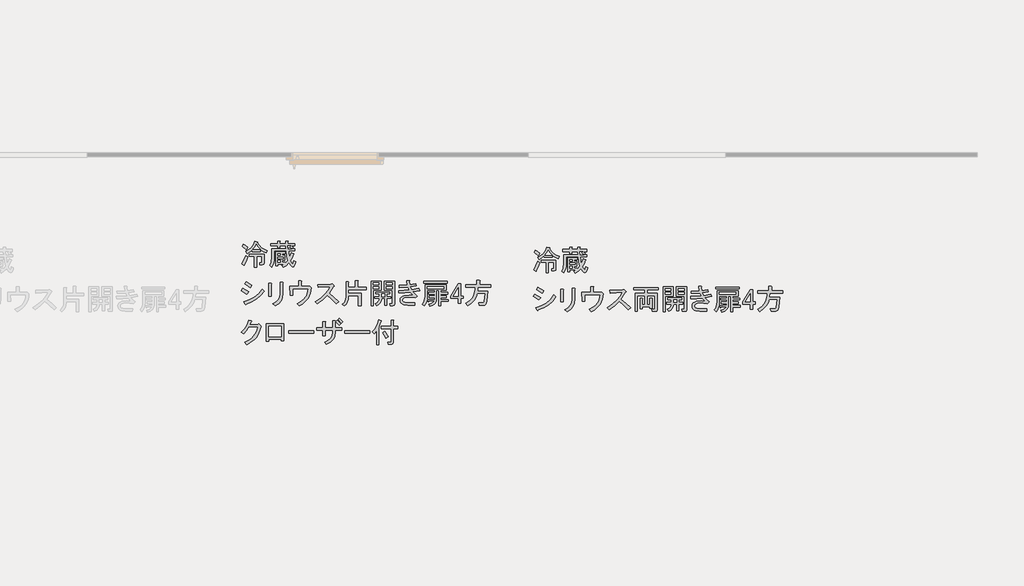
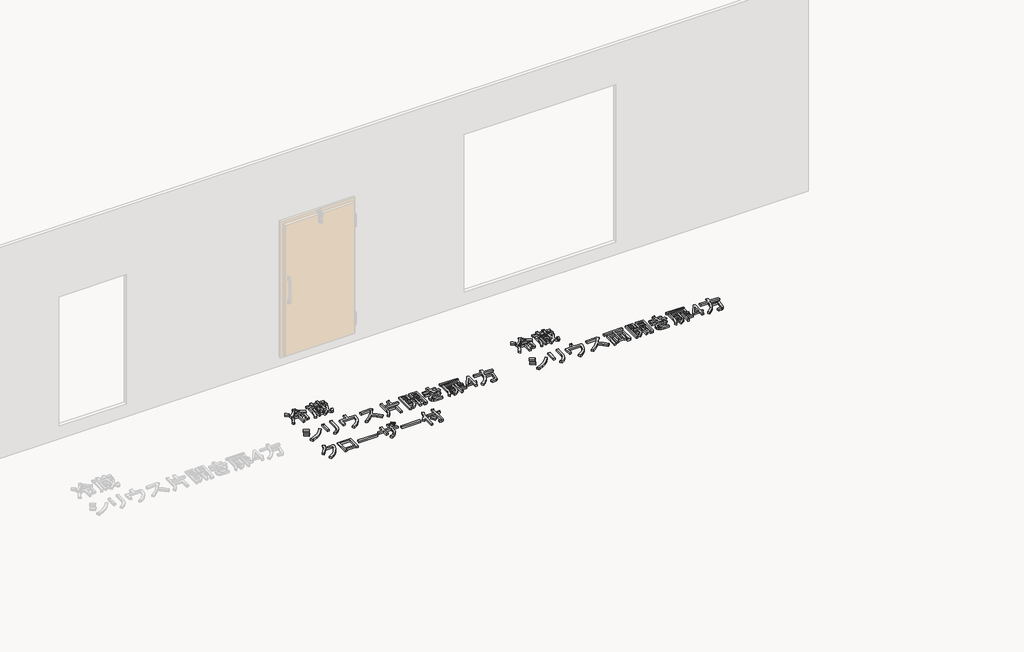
# One storey, part 81 of 117: 2 proxies.
"""IFC4 building model written with IfcOpenShell, lengths in millimetres."""

from ifc_helpers import new_model, si_unit, frame, origin, place, context, project, spatial, polyline, outline, extrude, element, save

model = new_model("IFC4")

# Units and contexts
model_context = context("Model", 3, world=origin())
ifc_project = project(units=[si_unit("LENGTHUNIT", "METRE", prefix="MILLI")], contexts=[model_context])

# Site, building, storey
site = spatial("IfcSite", under=ifc_project)
building = spatial("IfcBuilding", under=site)
storey = spatial("IfcBuildingStorey", under=building, Name="レベル 1", Elevation=500.0)

# Proxies
placement = place(None, origin())
element("IfcBuildingElementProxy", 1, Name="200㎜\u3000MS Pゴシック", ObjectType="200㎜\u3000MS Pゴシック", at=placement, inside=storey, context=model_context, shape_type="SweptSolid", body=[
    extrude(outline(polyline([(-9016.3970532, 19008.5050774), (-8982.7035553, 19027.9021871), (-8956.3378543, 19051.6097656), (-8937.2999504, 19079.6278129), (-8925.5898434, 19111.9563291), (-8894.5544679, 19103.9101206), (-8893.117645, 19100.174381), (-8898.002843, 19098.1628289), (-8879.1804624, 19070.6476696), (-8856.0476131, 19047.874026), (-8828.6042949, 19029.8418981), (-8796.850508, 19016.5512859), (-8808.3450915, 18992.4126605), (-8837.3689149, 19005.9187961), (-8866.9674674, 19025.7469527), (-8866.9674674, 19006.2061607), (-8949.7284688, 19006.2061607), (-8949.7284688, 19024.5974943), (-8974.1544588, 19002.7577856), (-9003.7530113, 18983.2169937), (-9016.3970532, 19008.5050774)]), holes=[polyline([(-8869.2663841, 19028.0458694), (-8895.4165617, 19055.3455052), (-8911.7963432, 19082.0704119), (-8925.5898434, 19053.0465885), (-8946.2800937, 19028.0458694), (-8869.2663841, 19028.0458694)])]), frame((0.0, 0.0, 500.0), z_axis=(0.0, 0.0, 1.0), x_axis=(1.0, 0.0, 0.0)), (0.0, 0.0, 1.0), 25.0),
    extrude(outline(polyline([(-9058.9270122, 18882.0646587), (-9035.9378452, 18921.7209718), (-9017.5465116, 18964.82566), (-8996.8562612, 18952.1816181), (-9014.3855011, 18908.2148362), (-9032.4894701, 18872.8689919), (-9033.0641993, 18866.5469709), (-9037.0873035, 18865.9722417), (-9058.9270122, 18882.0646587)])), frame((0.0, 0.0, 500.0), z_axis=(0.0, 0.0, 1.0), x_axis=(1.0, 0.0, 0.0)), (0.0, 0.0, 1.0), 25.0),
    extrude(outline(polyline([(-8979.6143859, 18957.9289099), (-8979.6143859, 18979.7686186), (-8830.1848002, 18979.7686186), (-8830.1848002, 18885.5130337), (-8834.2079044, 18874.3058148), (-8846.2772171, 18870.5700752), (-8871.5653009, 18870.5700752), (-8876.1631343, 18892.4097838), (-8857.7718006, 18892.4097838), (-8854.3234256, 18893.5592422), (-8853.1739672, 18897.0076172), (-8853.1739672, 18957.9289099), (-8907.1985098, 18957.9289099), (-8907.1985098, 18846.4314498), (-8930.1876768, 18846.4314498), (-8930.1876768, 18957.9289099), (-8979.6143859, 18957.9289099)])), frame((0.0, 0.0, 500.0), z_axis=(0.0, 0.0, 1.0), x_axis=(1.0, 0.0, 0.0)), (0.0, 0.0, 1.0), 25.0),
    extrude(outline(polyline([(-9041.685137, 19082.0704119), (-9020.9948866, 19069.1390055), (-8998.0057196, 19048.7361197), (-9014.0981365, 19025.7469527), (-9055.4786372, 19060.2307032), (-9041.685137, 19082.0704119)])), frame((0.0, 0.0, 500.0), z_axis=(0.0, 0.0, 1.0), x_axis=(1.0, 0.0, 0.0)), (0.0, 0.0, 1.0), 25.0),
    extrude(outline(polyline([(-8611.7877133, 18886.6624921), (-8585.3501712, 18913.1000342), (-8595.4079318, 18960.8025558), (-8600.2931298, 19014.2523692), (-8725.5840901, 19014.2523692), (-8725.5840901, 18939.5375763), (-8727.1645954, 18913.5310811), (-8731.9061111, 18889.536138), (-8739.8086373, 18867.552747), (-8750.8721739, 18847.5809081), (-8771.5624242, 18863.673325), (-8761.5046636, 18881.9209764), (-8754.3205489, 18902.1801798), (-8748.5732572, 18948.7332431), (-8748.5732572, 19036.0920778), (-8601.4425881, 19036.0920778), (-8601.4425881, 19047.5866614), (-8608.3393382, 19047.5866614), (-8608.3393382, 19065.977995), (-8668.1111725, 19065.977995), (-8668.1111725, 19044.1382863), (-8691.1003396, 19044.1382863), (-8691.1003396, 19065.977995), (-8760.0678407, 19065.977995), (-8760.0678407, 19087.8177037), (-8691.1003396, 19087.8177037), (-8691.1003396, 19113.1057874), (-8669.2606309, 19113.1057874), (-8664.3754329, 19110.8068707), (-8668.1111725, 19106.2090373), (-8668.1111725, 19087.8177037), (-8608.3393382, 19087.8177037), (-8608.3393382, 19113.1057874), (-8586.4996295, 19113.1057874), (-8581.6144316, 19110.8068707), (-8585.3501712, 19106.2090373), (-8585.3501712, 19087.8177037), (-8515.2332117, 19087.8177037), (-8515.2332117, 19065.977995), (-8552.015879, 19065.977995), (-8529.0267119, 19049.8855781), (-8542.8202122, 19036.0920778), (-8514.0837534, 19036.0920778), (-8514.0837534, 19014.2523692), (-8578.4534211, 19014.2523692), (-8569.2577543, 18937.2386596), (-8549.7169623, 18992.4126605), (-8526.7277952, 18982.0675353), (-8523.2794202, 18978.3317957), (-8529.0267119, 18976.3202435), (-8542.245483, 18942.4112222), (-8558.9126291, 18909.6516591), (-8546.8433164, 18888.099315), (-8535.9234621, 18880.9152003), (-8531.9003578, 18884.3635754), (-8529.0267119, 18894.7087005), (-8526.7277952, 18909.6516591), (-8504.8880866, 18901.6054507), (-8508.3364616, 18884.3635754), (-8517.819493, 18858.5007625), (-8524.5007197, 18852.0350592), (-8532.475087, 18849.8798248), (-8542.3891653, 18852.394265), (-8552.5906082, 18859.9375854), (-8573.8555877, 18890.1108671), (-8603.4541402, 18862.5238667), (-8630.1790469, 18844.1325331), (-8646.2714639, 18864.8227834), (-8623.2822968, 18878.6162836), (-8689.9508812, 18878.6162836), (-8689.9508812, 18861.3744083), (-8709.4916732, 18861.3744083), (-8709.4916732, 19002.7577856), (-8610.6382549, 19002.7577856), (-8610.6382549, 18984.366452), (-8643.9725471, 18984.366452), (-8643.9725471, 18968.2740351), (-8615.2360883, 18968.2740351), (-8615.2360883, 18915.3989509), (-8643.9725471, 18915.3989509), (-8643.9725471, 18897.0076172), (-8611.7877133, 18897.0076172), (-8611.7877133, 18886.6624921)]), holes=[polyline([(-8580.7523378, 19048.7361197), (-8575.8671398, 19046.1498384), (-8579.6028794, 19042.988828), (-8579.6028794, 19036.0920778), (-8546.2685872, 19036.0920778), (-8569.2577543, 19053.3339531), (-8556.6137124, 19065.977995), (-8585.3501712, 19065.977995), (-8585.3501712, 19048.7361197), (-8580.7523378, 19048.7361197)]), polyline([(-8689.9508812, 18968.2740351), (-8663.5133391, 18968.2740351), (-8663.5133391, 18984.366452), (-8689.9508812, 18984.366452), (-8689.9508812, 18968.2740351)]), polyline([(-8689.9508812, 18933.7902845), (-8634.7768803, 18933.7902845), (-8634.7768803, 18949.8827014), (-8689.9508812, 18949.8827014), (-8689.9508812, 18933.7902845)]), polyline([(-8689.9508812, 18897.0076172), (-8663.5133391, 18897.0076172), (-8663.5133391, 18915.3989509), (-8689.9508812, 18915.3989509), (-8689.9508812, 18897.0076172)])]), frame((0.0, 0.0, 500.0), z_axis=(0.0, 0.0, 1.0), x_axis=(1.0, 0.0, 0.0)), (0.0, 0.0, 1.0), 25.0),
    extrude(outline(polyline([(-9047.4324287, 18630.3447861), (-8988.8100528, 18593.5621188), (-9007.2013864, 18569.4234934), (-9064.674304, 18606.2061607), (-9047.4324287, 18630.3447861)])), frame((0.0, 0.0, 500.0), z_axis=(0.0, 0.0, 1.0), x_axis=(1.0, 0.0, 0.0)), (0.0, 0.0, 1.0), 25.0),
    extrude(outline(polyline([(-9015.2475949, 18698.1628289), (-8956.6252189, 18661.3801616), (-8972.7176358, 18637.2415362), (-9030.1905534, 18674.0242035), (-9015.2475949, 18698.1628289)])), frame((0.0, 0.0, 500.0), z_axis=(0.0, 0.0, 1.0), x_axis=(1.0, 0.0, 0.0)), (0.0, 0.0, 1.0), 25.0),
    extrude(outline(polyline([(-9039.3862203, 18491.2603255), (-8980.620162, 18509.7235003), (-8929.6129476, 18537.5260242), (-8886.3645771, 18574.6678972), (-8850.8750505, 18621.1491193), (-8830.1848002, 18600.4588689), (-8863.5190924, 18556.7794516), (-8904.8995931, 18519.9967843), (-8954.3263022, 18490.1108671), (-9011.7992198, 18467.1217001), (-9016.3970532, 18459.9375854), (-9023.2938033, 18465.9722417), (-9039.3862203, 18491.2603255)])), frame((0.0, 0.0, 500.0), z_axis=(0.0, 0.0, 1.0), x_axis=(1.0, 0.0, 0.0)), (0.0, 0.0, 1.0), 25.0),
    extrude(outline(polyline([(-8635.4665553, 18574.0213268), (-8640.4954356, 18533.9339668), (-8655.5820765, 18499.8812631), (-8680.726478, 18471.8632158), (-8715.92864, 18449.8798248), (-8738.917807, 18469.4206168), (-8705.655356, 18488.9614088), (-8681.732254, 18513.1000342), (-8667.1485012, 18541.836493), (-8661.9040974, 18575.1707852), (-8661.9040974, 18690.1166204), (-8637.765472, 18690.1166204), (-8631.4434511, 18686.6682453), (-8635.4665553, 18680.9209536), (-8635.4665553, 18574.0213268)])), frame((0.0, 0.0, 500.0), z_axis=(0.0, 0.0, 1.0), x_axis=(1.0, 0.0, 0.0)), (0.0, 0.0, 1.0), 25.0),
    extrude(outline(polyline([(-8753.8607656, 18548.7332431), (-8780.2983077, 18548.7332431), (-8780.2983077, 18678.6220369), (-8755.010224, 18678.6220369), (-8748.9755676, 18675.748391), (-8753.8607656, 18669.4263701), (-8753.8607656, 18548.7332431)])), frame((0.0, 0.0, 500.0), z_axis=(0.0, 0.0, 1.0), x_axis=(1.0, 0.0, 0.0)), (0.0, 0.0, 1.0), 25.0),
    extrude(outline(polyline([(-8346.952509, 18634.9426195), (-8348.8383391, 18604.6436157), (-8354.4958294, 18576.3920847), (-8363.92498, 18550.1880263), (-8377.1257907, 18526.0314406), (-8394.0982617, 18503.9223276), (-8414.8423929, 18483.8606873), (-8439.3581843, 18465.8465197), (-8467.6456359, 18449.8798248), (-8489.4853446, 18471.7195335), (-8440.6333647, 18500.1686277), (-8421.3799373, 18516.7639327), (-8405.5748849, 18534.9397429), (-8393.2182077, 18554.6960583), (-8384.3099054, 18576.032879), (-8378.8499782, 18598.9502048), (-8376.8384261, 18623.448036), (-8536.6131371, 18623.448036), (-8534.3142204, 18555.6299932), (-8560.7517625, 18555.6299932), (-8564.2001375, 18648.7361197), (-8473.3929277, 18648.7361197), (-8473.3929277, 18706.2090373), (-8450.4037607, 18706.2090373), (-8442.6449168, 18703.3353914), (-8446.9553856, 18697.0133705), (-8446.9553856, 18648.7361197), (-8360.7460092, 18648.7361197), (-8346.952509, 18634.9426195)])), frame((0.0, 0.0, 500.0), z_axis=(0.0, 0.0, 1.0), x_axis=(1.0, 0.0, 0.0)), (0.0, 0.0, 1.0), 25.0),
    extrude(outline(polyline([(-8162.3035193, 18577.4697019), (-8113.1641748, 18536.6639304), (-8064.5995594, 18490.1108671), (-8087.5887264, 18470.5700752), (-8135.0038834, 18517.1231384), (-8180.6948529, 18555.6299932), (-8228.6847391, 18509.9390237), (-8282.9966463, 18469.4206168), (-8304.836355, 18488.9614088), (-8249.3749895, 18528.6177219), (-8204.8334783, 18568.2740351), (-8171.2118215, 18607.9303482), (-8148.5100191, 18647.5866614), (-8273.8009795, 18639.5404529), (-8277.2493545, 18667.1274534), (-8143.9121857, 18672.8747451), (-8130.1186855, 18676.3231202), (-8111.7273518, 18657.9317865), (-8108.8537059, 18651.322401), (-8116.3251852, 18647.5866614), (-8162.3035193, 18577.4697019)])), frame((0.0, 0.0, 500.0), z_axis=(0.0, 0.0, 1.0), x_axis=(1.0, 0.0, 0.0)), (0.0, 0.0, 1.0), 25.0),
    extrude(outline(polyline([(-7964.1368994, 18697.0133705), (-7958.1022431, 18693.5649954), (-7962.9874411, 18687.8177037), (-7962.9874411, 18639.5404529), (-7891.7210232, 18639.5404529), (-7891.7210232, 18708.507954), (-7866.4329395, 18708.507954), (-7860.3982831, 18705.059579), (-7865.2834811, 18699.3122872), (-7865.2834811, 18639.5404529), (-7780.2235631, 18639.5404529), (-7780.2235631, 18614.2523692), (-7962.9874411, 18614.2523692), (-7962.9874411, 18577.4697019), (-7833.0986473, 18577.4697019), (-7833.0986473, 18448.7303665), (-7859.5361894, 18448.7303665), (-7859.5361894, 18552.1816181), (-7962.9874411, 18552.1816181), (-7962.9874411, 18540.6870346), (-7965.7174047, 18513.7466045), (-7973.9072954, 18489.2487734), (-7987.5571133, 18467.1935412), (-8006.6668584, 18447.5809081), (-8025.0581921, 18465.9722417), (-8007.9599991, 18481.5617706), (-7995.7470041, 18499.5938985), (-7988.4192071, 18520.0686254), (-7985.9766081, 18542.9859513), (-7985.9766081, 18697.0133705), (-7964.1368994, 18697.0133705)])), frame((0.0, 0.0, 500.0), z_axis=(0.0, 0.0, 1.0), x_axis=(1.0, 0.0, 0.0)), (0.0, 0.0, 1.0), 25.0),
    extrude(outline(polyline([(-7626.1961439, 18608.5050774), (-7706.6582286, 18608.5050774), (-7706.6582286, 18447.5809081), (-7729.6473956, 18447.5809081), (-7729.6473956, 18703.9101206), (-7626.1961439, 18703.9101206), (-7626.1961439, 18608.5050774)]), holes=[polyline([(-7649.185311, 18685.518787), (-7706.6582286, 18685.518787), (-7706.6582286, 18664.8285366), (-7649.185311, 18664.8285366), (-7649.185311, 18685.518787)]), polyline([(-7706.6582286, 18626.896411), (-7649.185311, 18626.896411), (-7649.185311, 18646.437203), (-7706.6582286, 18646.437203), (-7706.6582286, 18626.896411)])]), frame((0.0, 0.0, 500.0), z_axis=(0.0, 0.0, 1.0), x_axis=(1.0, 0.0, 0.0)), (0.0, 0.0, 1.0), 25.0),
    extrude(outline(polyline([(-7690.5658116, 18525.7440761), (-7690.5658116, 18544.1354097), (-7644.5874775, 18544.1354097), (-7644.5874775, 18571.7224101), (-7682.5196032, 18571.7224101), (-7682.5196032, 18590.1137438), (-7537.6878508, 18590.1137438), (-7537.6878508, 18571.7224101), (-7567.573768, 18571.7224101), (-7567.573768, 18544.1354097), (-7528.492184, 18544.1354097), (-7528.492184, 18525.7440761), (-7567.573768, 18525.7440761), (-7567.573768, 18456.7765749), (-7590.562935, 18456.7765749), (-7590.562935, 18525.7440761), (-7621.5983105, 18525.7440761), (-7623.9690684, 18502.1083387), (-7633.3802586, 18481.7772941), (-7649.8318813, 18464.7509422), (-7673.3239363, 18451.0292832), (-7684.8185199, 18472.8689919), (-7667.2174389, 18481.7772941), (-7654.6452381, 18493.5592422), (-7647.1019177, 18508.2148362), (-7644.5874775, 18525.7440761), (-7690.5658116, 18525.7440761)]), holes=[polyline([(-7590.562935, 18544.1354097), (-7590.562935, 18571.7224101), (-7621.5983105, 18571.7224101), (-7621.5983105, 18544.1354097), (-7590.562935, 18544.1354097)])]), frame((0.0, 0.0, 500.0), z_axis=(0.0, 0.0, 1.0), x_axis=(1.0, 0.0, 0.0)), (0.0, 0.0, 1.0), 25.0),
    extrude(outline(polyline([(-7595.1607684, 18703.9101206), (-7487.1116833, 18703.9101206), (-7487.1116833, 18469.4206168), (-7491.7095167, 18455.6271166), (-7505.503017, 18451.0292832), (-7533.0900174, 18451.0292832), (-7536.5383925, 18472.8689919), (-7514.6986838, 18472.8689919), (-7511.2503087, 18474.0184502), (-7510.1008504, 18477.4668253), (-7510.1008504, 18608.5050774), (-7552.6308094, 18608.5050774), (-7595.1607684, 18608.5050774), (-7595.1607684, 18703.9101206)]), holes=[polyline([(-7572.1716014, 18626.896411), (-7510.1008504, 18626.896411), (-7510.1008504, 18646.437203), (-7572.1716014, 18646.437203), (-7572.1716014, 18626.896411)]), polyline([(-7510.1008504, 18664.8285366), (-7510.1008504, 18685.518787), (-7572.1716014, 18685.518787), (-7572.1716014, 18664.8285366), (-7510.1008504, 18664.8285366)])]), frame((0.0, 0.0, 500.0), z_axis=(0.0, 0.0, 1.0), x_axis=(1.0, 0.0, 0.0)), (0.0, 0.0, 1.0), 25.0),
    extrude(outline(polyline([(-7326.187514, 18642.988828), (-7312.3940138, 18614.2523692), (-7239.9781376, 18630.3447861), (-7229.6330125, 18606.2061607), (-7299.7499719, 18593.5621188), (-7279.9218154, 18571.147681), (-7254.9210962, 18549.8827014), (-7274.4618882, 18530.3419095), (-7311.53192, 18537.2386596), (-7339.9810143, 18539.5375763), (-7377.9131399, 18536.0892012), (-7390.8445463, 18531.7787324), (-7399.7528486, 18525.7440761), (-7405.7875049, 18517.410503), (-7407.799057, 18508.5022008), (-7406.0748695, 18498.1570756), (-7400.9023069, 18490.1108671), (-7383.373067, 18483.214117), (-7349.1766811, 18480.9152003), (-7279.0597216, 18480.9152003), (-7283.657555, 18455.6271166), (-7353.7745145, 18455.6271166), (-7392.8560985, 18460.22495), (-7407.2243279, 18465.9722417), (-7418.1441822, 18474.0184502), (-7428.4893074, 18489.8235025), (-7431.9376824, 18509.6516591), (-7428.776672, 18525.7440761), (-7419.2936405, 18539.5375763), (-7406.9369633, 18548.0866728), (-7389.4077234, 18554.1931703), (-7338.8315559, 18559.0783683), (-7297.4510552, 18555.6299932), (-7326.187514, 18588.9642854), (-7382.7983379, 18583.7917228), (-7444.5817243, 18582.0675353), (-7448.0300993, 18606.2061607), (-7391.1319109, 18606.7808899), (-7337.6820976, 18610.8039941), (-7350.3261394, 18639.5404529), (-7438.8344325, 18636.0920778), (-7441.1333492, 18659.0812449), (-7356.0734312, 18661.3801616), (-7365.269098, 18708.507954), (-7339.9810143, 18708.507954), (-7333.9463579, 18705.059579), (-7338.8315559, 18699.3122872), (-7333.0842641, 18664.8285366), (-7272.1629715, 18676.3231202), (-7264.116763, 18653.3339531), (-7326.187514, 18642.988828)])), frame((0.0, 0.0, 500.0), z_axis=(0.0, 0.0, 1.0), x_axis=(1.0, 0.0, 0.0)), (0.0, 0.0, 1.0), 25.0),
    extrude(outline(polyline([(-6947.9697379, 18701.6112039), (-6947.9697379, 18683.2198703), (-7187.0570751, 18683.2198703), (-7187.0570751, 18701.6112039), (-6947.9697379, 18701.6112039)])), frame((0.0, 0.0, 500.0), z_axis=(0.0, 0.0, 1.0), x_axis=(1.0, 0.0, 0.0)), (0.0, 0.0, 1.0), 25.0),
    extrude(outline(polyline([(-7135.3314493, 18463.673325), (-7115.5032927, 18470.3545517), (-7099.6982403, 18478.9036482), (-7087.9162922, 18489.3206145), (-7080.1574484, 18501.6054507), (-7135.3314493, 18493.5592422), (-7137.3430014, 18488.6740442), (-7141.078741, 18490.1108671), (-7145.6765744, 18511.9505758), (-7077.8585317, 18518.8473259), (-7077.8585317, 18532.6408262), (-7131.8830742, 18532.6408262), (-7131.8830742, 18551.0321598), (-7077.8585317, 18551.0321598), (-7077.8585317, 18569.4234934), (-7138.7798243, 18569.4234934), (-7138.7798243, 18587.8148271), (-7077.8585317, 18587.8148271), (-7077.8585317, 18608.5050774), (-7152.5733245, 18608.5050774), (-7152.5733245, 18542.9859513), (-7154.5848767, 18515.6144743), (-7160.619533, 18490.9729609), (-7170.6772936, 18469.0614111), (-7184.7581584, 18449.8798248), (-7202.0000337, 18467.1217001), (-7190.433609, 18484.7946223), (-7182.1718771, 18504.4790965), (-7177.214838, 18526.1751229), (-7175.5624916, 18549.8827014), (-7175.5624916, 18665.977995), (-6958.314863, 18665.977995), (-6958.314863, 18608.5050774), (-7014.6383223, 18608.5050774), (-7014.6383223, 18587.8148271), (-6944.5213628, 18587.8148271), (-6944.5213628, 18569.4234934), (-7014.6383223, 18569.4234934), (-7014.6383223, 18551.0321598), (-6957.1654047, 18551.0321598), (-6957.1654047, 18532.6408262), (-7014.6383223, 18532.6408262), (-7014.6383223, 18513.1000342), (-6937.6246127, 18513.1000342), (-6937.6246127, 18494.7087005), (-7014.6383223, 18494.7087005), (-7014.6383223, 18448.7303665), (-7034.1791143, 18448.7303665), (-7034.1791143, 18608.5050774), (-7058.3177397, 18608.5050774), (-7058.3177397, 18522.295701), (-7062.7000496, 18494.4931771), (-7075.8469795, 18472.0068981), (-7097.7585294, 18454.836864), (-7128.4346991, 18442.9830747), (-7135.3314493, 18463.673325)]), holes=[polyline([(-6981.3040301, 18647.5866614), (-7152.5733245, 18647.5866614), (-7152.5733245, 18626.896411), (-6981.3040301, 18626.896411), (-6981.3040301, 18647.5866614)])]), frame((0.0, 0.0, 500.0), z_axis=(0.0, 0.0, 1.0), x_axis=(1.0, 0.0, 0.0)), (0.0, 0.0, 1.0), 25.0),
    extrude(outline(polyline([(-6834.173361, 18675.1736618), (-6807.7358189, 18675.1736618), (-6807.7358189, 18548.7332431), (-6783.5971935, 18548.7332431), (-6783.5971935, 18526.8935344), (-6807.7358189, 18526.8935344), (-6807.7358189, 18476.3173669), (-6834.173361, 18476.3173669), (-6834.173361, 18526.8935344), (-6911.1870706, 18526.8935344), (-6911.1870706, 18549.8827014), (-6834.173361, 18675.1736618)]), holes=[polyline([(-6834.173361, 18632.6437028), (-6885.8989869, 18548.7332431), (-6834.173361, 18548.7332431), (-6834.173361, 18632.6437028)])]), frame((0.0, 0.0, 500.0), z_axis=(0.0, 0.0, 1.0), x_axis=(1.0, 0.0, 0.0)), (0.0, 0.0, 1.0), 25.0),
    extrude(outline(polyline([(-6636.4665245, 18598.1599522), (-6529.5668977, 18598.1599522), (-6541.0614813, 18494.7087005), (-6544.869062, 18476.6047315), (-6551.693971, 18463.673325), (-6561.5362081, 18455.9144812), (-6574.3957735, 18453.3281999), (-6620.3741075, 18453.3281999), (-6626.1213993, 18478.6162836), (-6576.6946902, 18478.6162836), (-6570.0853046, 18482.9267524), (-6566.349565, 18495.8581589), (-6557.1538982, 18576.3202435), (-6639.9148995, 18576.3202435), (-6651.6968476, 18540.8307169), (-6672.0997334, 18507.9274716), (-6701.1235568, 18477.6105076), (-6738.7683178, 18449.8798248), (-6754.8607347, 18474.0184502), (-6715.2762627, 18500.2404689), (-6686.1805982, 18532.9281908), (-6667.5737411, 18572.0816159), (-6659.4556915, 18617.7007442), (-6658.3062332, 18638.3909946), (-6754.8607347, 18638.3909946), (-6754.8607347, 18663.6790783), (-6642.2138162, 18663.6790783), (-6642.2138162, 18709.6574124), (-6616.9257325, 18709.6574124), (-6610.8910761, 18706.2090373), (-6615.7762741, 18700.4617456), (-6615.7762741, 18663.6790783), (-6499.6809806, 18663.6790783), (-6499.6809806, 18638.3909946), (-6631.8686911, 18638.3909946), (-6636.4665245, 18598.1599522)])), frame((0.0, 0.0, 500.0), z_axis=(0.0, 0.0, 1.0), x_axis=(1.0, 0.0, 0.0)), (0.0, 0.0, 1.0), 25.0),
    extrude(outline(polyline([(-8864.6685507, 18230.3447861), (-8871.6910229, 18200.1355838), (-8881.8385849, 18172.153457), (-8895.1112368, 18146.3984058), (-8911.5089786, 18122.8704302), (-8931.0318103, 18101.5695301), (-8953.6797319, 18082.4957056), (-8979.4527434, 18065.6489566), (-9008.3508447, 18051.0292832), (-9029.0410951, 18072.8689919), (-8978.3212453, 18100.0249454), (-8957.1640275, 18116.7280121), (-8938.8086144, 18135.514472), (-8923.2550061, 18156.3843252), (-8910.5032025, 18179.3375717), (-8900.5532037, 18204.3742114), (-8893.4050095, 18231.4942444), (-8985.3616777, 18231.4942444), (-9012.373949, 18192.1252959), (-9040.5356786, 18161.377285), (-9063.5248456, 18176.3202435), (-9036.2970509, 18204.4819732), (-9014.3855011, 18234.9426195), (-8997.7901961, 18267.7021825), (-8986.5111361, 18302.7606623), (-8960.073594, 18293.5649954), (-8957.1999481, 18290.1166204), (-8962.3725107, 18286.6682453), (-8975.0165525, 18256.7823282), (-8892.2555512, 18256.7823282), (-8881.910426, 18262.5296199), (-8861.2201757, 18241.8393696), (-8858.0591652, 18234.9426195), (-8864.6685507, 18230.3447861)])), frame((0.0, 0.0, 500.0), z_axis=(0.0, 0.0, 1.0), x_axis=(1.0, 0.0, 0.0)), (0.0, 0.0, 1.0), 25.0),
    extrude(outline(polyline([(-8626.9605635, 18092.4097838), (-8653.3981056, 18092.4097838), (-8653.3981056, 18105.0538257), (-8780.9879827, 18105.0538257), (-8780.9879827, 18086.6624921), (-8807.4255248, 18086.6624921), (-8807.4255248, 18265.977995), (-8626.9605635, 18265.977995), (-8626.9605635, 18092.4097838)]), holes=[polyline([(-8780.9879827, 18240.6899113), (-8780.9879827, 18130.3419095), (-8653.3981056, 18130.3419095), (-8653.3981056, 18240.6899113), (-8780.9879827, 18240.6899113)])]), frame((0.0, 0.0, 500.0), z_axis=(0.0, 0.0, 1.0), x_axis=(1.0, 0.0, 0.0)), (0.0, 0.0, 1.0), 25.0),
    extrude(outline(polyline([(-8576.2004827, 18167.1245767), (-8576.2004827, 18192.4126605), (-8319.8712702, 18192.4126605), (-8319.8712702, 18167.1245767), (-8576.2004827, 18167.1245767)])), frame((0.0, 0.0, 500.0), z_axis=(0.0, 0.0, 1.0), x_axis=(1.0, 0.0, 0.0)), (0.0, 0.0, 1.0), 25.0),
    extrude(outline(polyline([(-8099.4511366, 18225.7469527), (-8031.6330938, 18225.7469527), (-8031.6330938, 18200.4588689), (-8098.3016783, 18200.4588689), (-8098.3016783, 18178.6191602), (-8103.9771289, 18138.6036414), (-8111.0714421, 18120.9127589), (-8121.0034807, 18104.7664611), (-8149.3807338, 18077.1076195), (-8189.1088881, 18055.6271166), (-8207.5002217, 18076.3173669), (-8171.2922836, 18092.9126719), (-8145.4294707, 18115.1115863), (-8129.9117829, 18142.9141102), (-8124.7392204, 18176.3202435), (-8124.7392204, 18200.4588689), (-8200.6034716, 18200.4588689), (-8199.4540132, 18141.836493), (-8224.742097, 18141.836493), (-8225.8915553, 18200.4588689), (-8290.2612231, 18200.4588689), (-8290.2612231, 18225.7469527), (-8225.8915553, 18225.7469527), (-8227.0410137, 18286.6682453), (-8202.9023883, 18286.6682453), (-8196.867732, 18283.2198703), (-8201.75293, 18275.1736618), (-8200.6034716, 18225.7469527), (-8125.8886787, 18225.7469527), (-8125.8886787, 18295.8639122), (-8100.600595, 18295.8639122), (-8094.5659386, 18292.4155371), (-8099.4511366, 18284.3693286), (-8099.4511366, 18225.7469527)])), frame((0.0, 0.0, 500.0), z_axis=(0.0, 0.0, 1.0), x_axis=(1.0, 0.0, 0.0)), (0.0, 0.0, 1.0), 25.0),
    extrude(outline(polyline([(-8078.7608863, 18301.6112039), (-8041.978219, 18263.6790783), (-8056.9211776, 18251.0350364), (-8091.4049282, 18287.8177037), (-8078.7608863, 18301.6112039)])), frame((0.0, 0.0, 500.0), z_axis=(0.0, 0.0, 1.0), x_axis=(1.0, 0.0, 0.0)), (0.0, 0.0, 1.0), 25.0),
    extrude(outline(polyline([(-8056.9211776, 18321.1519959), (-8020.1385103, 18283.2198703), (-8035.0814689, 18270.5758284), (-8069.5652195, 18307.3584957), (-8056.9211776, 18321.1519959)])), frame((0.0, 0.0, 500.0), z_axis=(0.0, 0.0, 1.0), x_axis=(1.0, 0.0, 0.0)), (0.0, 0.0, 1.0), 25.0),
    extrude(outline(polyline([(-7999.44826, 18167.1245767), (-7999.44826, 18192.4126605), (-7743.1190475, 18192.4126605), (-7743.1190475, 18167.1245767), (-7999.44826, 18167.1245767)])), frame((0.0, 0.0, 500.0), z_axis=(0.0, 0.0, 1.0), x_axis=(1.0, 0.0, 0.0)), (0.0, 0.0, 1.0), 25.0),
    extrude(outline(polyline([(-7630.747999, 18287.8177037), (-7639.3689366, 18259.0812449), (-7651.4382493, 18230.3447861), (-7645.1162284, 18226.896411), (-7649.1393326, 18221.1491193), (-7649.1393326, 18051.0292832), (-7672.1284997, 18051.0292832), (-7672.1284997, 18193.5621188), (-7697.4165834, 18162.5267433), (-7715.807917, 18183.2169937), (-7693.2497969, 18208.4332363), (-7675.0021455, 18236.9541716), (-7661.064963, 18268.7797997), (-7651.4382493, 18303.9101206), (-7627.2996239, 18294.7144538), (-7625.862801, 18290.6913496), (-7630.747999, 18287.8177037)])), frame((0.0, 0.0, 500.0), z_axis=(0.0, 0.0, 1.0), x_axis=(1.0, 0.0, 0.0)), (0.0, 0.0, 1.0), 25.0),
    extrude(outline(polyline([(-7523.8483722, 18237.2415362), (-7523.8483722, 18302.7606623), (-7502.0086636, 18302.7606623), (-7497.1234656, 18300.4617456), (-7500.8592052, 18295.8639122), (-7500.8592052, 18237.2415362), (-7453.7314128, 18237.2415362), (-7453.7314128, 18215.4018275), (-7500.8592052, 18215.4018275), (-7500.8592052, 18072.8689919), (-7505.4570386, 18059.0754916), (-7519.2505388, 18054.4776582), (-7553.7342894, 18054.4776582), (-7559.4815812, 18076.3173669), (-7528.4462057, 18076.3173669), (-7524.9978306, 18077.4668253), (-7523.8483722, 18080.9152003), (-7523.8483722, 18215.4018275), (-7627.2996239, 18215.4018275), (-7627.2996239, 18237.2415362), (-7523.8483722, 18237.2415362)])), frame((0.0, 0.0, 500.0), z_axis=(0.0, 0.0, 1.0), x_axis=(1.0, 0.0, 0.0)), (0.0, 0.0, 1.0), 25.0),
    extrude(outline(polyline([(-7590.5169567, 18185.5159104), (-7554.8837478, 18131.4913678), (-7577.8729148, 18116.5484092), (-7594.5400609, 18147.0090556), (-7612.3566654, 18171.7224101), (-7590.5169567, 18185.5159104)])), frame((0.0, 0.0, 500.0), z_axis=(0.0, 0.0, 1.0), x_axis=(1.0, 0.0, 0.0)), (0.0, 0.0, 1.0), 25.0),
])
element("IfcBuildingElementProxy", 2, Name="200㎜\u3000MS Pゴシック", ObjectType="200㎜\u3000MS Pゴシック", at=placement, inside=storey, context=model_context, shape_type="SweptSolid", body=[
    extrude(outline(polyline([(-6016.3970532, 18948.5050774), (-5982.7035553, 18967.9021871), (-5956.3378543, 18991.6097656), (-5937.2999504, 19019.6278129), (-5925.5898434, 19051.9563291), (-5894.5544679, 19043.9101206), (-5893.117645, 19040.174381), (-5898.002843, 19038.1628289), (-5879.1804624, 19010.6476696), (-5856.0476131, 18987.874026), (-5828.6042949, 18969.8418981), (-5796.850508, 18956.5512859), (-5808.3450915, 18932.4126605), (-5837.3689149, 18945.9187961), (-5866.9674674, 18965.7469527), (-5866.9674674, 18946.2061607), (-5949.7284688, 18946.2061607), (-5949.7284688, 18964.5974943), (-5974.1544588, 18942.7577856), (-6003.7530113, 18923.2169937), (-6016.3970532, 18948.5050774)]), holes=[polyline([(-5869.2663841, 18968.0458694), (-5895.4165617, 18995.3455052), (-5911.7963432, 19022.0704119), (-5925.5898434, 18993.0465885), (-5946.2800937, 18968.0458694), (-5869.2663841, 18968.0458694)])]), frame((0.0, 0.0, 500.0), z_axis=(0.0, 0.0, 1.0), x_axis=(1.0, 0.0, 0.0)), (0.0, 0.0, 1.0), 25.0),
    extrude(outline(polyline([(-6058.9270122, 18822.0646587), (-6035.9378452, 18861.7209718), (-6017.5465116, 18904.82566), (-5996.8562612, 18892.1816181), (-6014.3855011, 18848.2148362), (-6032.4894701, 18812.8689919), (-6033.0641993, 18806.5469709), (-6037.0873035, 18805.9722417), (-6058.9270122, 18822.0646587)])), frame((0.0, 0.0, 500.0), z_axis=(0.0, 0.0, 1.0), x_axis=(1.0, 0.0, 0.0)), (0.0, 0.0, 1.0), 25.0),
    extrude(outline(polyline([(-5979.6143859, 18897.9289099), (-5979.6143859, 18919.7686186), (-5830.1848002, 18919.7686186), (-5830.1848002, 18825.5130337), (-5834.2079044, 18814.3058148), (-5846.2772171, 18810.5700752), (-5871.5653009, 18810.5700752), (-5876.1631343, 18832.4097838), (-5857.7718006, 18832.4097838), (-5854.3234256, 18833.5592422), (-5853.1739672, 18837.0076172), (-5853.1739672, 18897.9289099), (-5907.1985098, 18897.9289099), (-5907.1985098, 18786.4314498), (-5930.1876768, 18786.4314498), (-5930.1876768, 18897.9289099), (-5979.6143859, 18897.9289099)])), frame((0.0, 0.0, 500.0), z_axis=(0.0, 0.0, 1.0), x_axis=(1.0, 0.0, 0.0)), (0.0, 0.0, 1.0), 25.0),
    extrude(outline(polyline([(-6041.685137, 19022.0704119), (-6020.9948866, 19009.1390055), (-5998.0057196, 18988.7361197), (-6014.0981365, 18965.7469527), (-6055.4786372, 19000.2307032), (-6041.685137, 19022.0704119)])), frame((0.0, 0.0, 500.0), z_axis=(0.0, 0.0, 1.0), x_axis=(1.0, 0.0, 0.0)), (0.0, 0.0, 1.0), 25.0),
    extrude(outline(polyline([(-5611.7877133, 18826.6624921), (-5585.3501712, 18853.1000342), (-5595.4079318, 18900.8025558), (-5600.2931298, 18954.2523692), (-5725.5840901, 18954.2523692), (-5725.5840901, 18879.5375763), (-5727.1645954, 18853.5310811), (-5731.9061111, 18829.536138), (-5739.8086373, 18807.552747), (-5750.8721739, 18787.5809081), (-5771.5624242, 18803.673325), (-5761.5046636, 18821.9209764), (-5754.3205489, 18842.1801798), (-5748.5732572, 18888.7332431), (-5748.5732572, 18976.0920778), (-5601.4425881, 18976.0920778), (-5601.4425881, 18987.5866614), (-5608.3393382, 18987.5866614), (-5608.3393382, 19005.977995), (-5668.1111725, 19005.977995), (-5668.1111725, 18984.1382863), (-5691.1003396, 18984.1382863), (-5691.1003396, 19005.977995), (-5760.0678407, 19005.977995), (-5760.0678407, 19027.8177037), (-5691.1003396, 19027.8177037), (-5691.1003396, 19053.1057874), (-5669.2606309, 19053.1057874), (-5664.3754329, 19050.8068707), (-5668.1111725, 19046.2090373), (-5668.1111725, 19027.8177037), (-5608.3393382, 19027.8177037), (-5608.3393382, 19053.1057874), (-5586.4996295, 19053.1057874), (-5581.6144316, 19050.8068707), (-5585.3501712, 19046.2090373), (-5585.3501712, 19027.8177037), (-5515.2332117, 19027.8177037), (-5515.2332117, 19005.977995), (-5552.015879, 19005.977995), (-5529.0267119, 18989.8855781), (-5542.8202122, 18976.0920778), (-5514.0837534, 18976.0920778), (-5514.0837534, 18954.2523692), (-5578.4534211, 18954.2523692), (-5569.2577543, 18877.2386596), (-5549.7169623, 18932.4126605), (-5526.7277952, 18922.0675353), (-5523.2794202, 18918.3317957), (-5529.0267119, 18916.3202435), (-5542.245483, 18882.4112222), (-5558.9126291, 18849.6516591), (-5546.8433164, 18828.099315), (-5535.9234621, 18820.9152003), (-5531.9003578, 18824.3635754), (-5529.0267119, 18834.7087005), (-5526.7277952, 18849.6516591), (-5504.8880866, 18841.6054507), (-5508.3364616, 18824.3635754), (-5517.819493, 18798.5007625), (-5524.5007197, 18792.0350592), (-5532.475087, 18789.8798248), (-5542.3891653, 18792.394265), (-5552.5906082, 18799.9375854), (-5573.8555877, 18830.1108671), (-5603.4541402, 18802.5238667), (-5630.1790469, 18784.1325331), (-5646.2714639, 18804.8227834), (-5623.2822968, 18818.6162836), (-5689.9508812, 18818.6162836), (-5689.9508812, 18801.3744083), (-5709.4916732, 18801.3744083), (-5709.4916732, 18942.7577856), (-5610.6382549, 18942.7577856), (-5610.6382549, 18924.366452), (-5643.9725471, 18924.366452), (-5643.9725471, 18908.2740351), (-5615.2360883, 18908.2740351), (-5615.2360883, 18855.3989509), (-5643.9725471, 18855.3989509), (-5643.9725471, 18837.0076172), (-5611.7877133, 18837.0076172), (-5611.7877133, 18826.6624921)]), holes=[polyline([(-5580.7523378, 18988.7361197), (-5575.8671398, 18986.1498384), (-5579.6028794, 18982.988828), (-5579.6028794, 18976.0920778), (-5546.2685872, 18976.0920778), (-5569.2577543, 18993.3339531), (-5556.6137124, 19005.977995), (-5585.3501712, 19005.977995), (-5585.3501712, 18988.7361197), (-5580.7523378, 18988.7361197)]), polyline([(-5689.9508812, 18908.2740351), (-5663.5133391, 18908.2740351), (-5663.5133391, 18924.366452), (-5689.9508812, 18924.366452), (-5689.9508812, 18908.2740351)]), polyline([(-5689.9508812, 18873.7902845), (-5634.7768803, 18873.7902845), (-5634.7768803, 18889.8827014), (-5689.9508812, 18889.8827014), (-5689.9508812, 18873.7902845)]), polyline([(-5689.9508812, 18837.0076172), (-5663.5133391, 18837.0076172), (-5663.5133391, 18855.3989509), (-5689.9508812, 18855.3989509), (-5689.9508812, 18837.0076172)])]), frame((0.0, 0.0, 500.0), z_axis=(0.0, 0.0, 1.0), x_axis=(1.0, 0.0, 0.0)), (0.0, 0.0, 1.0), 25.0),
    extrude(outline(polyline([(-6047.4324287, 18570.3447861), (-5988.8100528, 18533.5621188), (-6007.2013864, 18509.4234934), (-6064.674304, 18546.2061607), (-6047.4324287, 18570.3447861)])), frame((0.0, 0.0, 500.0), z_axis=(0.0, 0.0, 1.0), x_axis=(1.0, 0.0, 0.0)), (0.0, 0.0, 1.0), 25.0),
    extrude(outline(polyline([(-6015.2475949, 18638.1628289), (-5956.6252189, 18601.3801616), (-5972.7176358, 18577.2415362), (-6030.1905534, 18614.0242035), (-6015.2475949, 18638.1628289)])), frame((0.0, 0.0, 500.0), z_axis=(0.0, 0.0, 1.0), x_axis=(1.0, 0.0, 0.0)), (0.0, 0.0, 1.0), 25.0),
    extrude(outline(polyline([(-6039.3862203, 18431.2603255), (-5980.620162, 18449.7235003), (-5929.6129476, 18477.5260242), (-5886.3645771, 18514.6678972), (-5850.8750505, 18561.1491193), (-5830.1848002, 18540.4588689), (-5863.5190924, 18496.7794516), (-5904.8995931, 18459.9967843), (-5954.3263022, 18430.1108671), (-6011.7992198, 18407.1217001), (-6016.3970532, 18399.9375854), (-6023.2938033, 18405.9722417), (-6039.3862203, 18431.2603255)])), frame((0.0, 0.0, 500.0), z_axis=(0.0, 0.0, 1.0), x_axis=(1.0, 0.0, 0.0)), (0.0, 0.0, 1.0), 25.0),
    extrude(outline(polyline([(-5635.4665553, 18514.0213268), (-5640.4954356, 18473.9339668), (-5655.5820765, 18439.8812631), (-5680.726478, 18411.8632158), (-5715.92864, 18389.8798248), (-5738.917807, 18409.4206168), (-5705.655356, 18428.9614088), (-5681.732254, 18453.1000342), (-5667.1485012, 18481.836493), (-5661.9040974, 18515.1707852), (-5661.9040974, 18630.1166204), (-5637.765472, 18630.1166204), (-5631.4434511, 18626.6682453), (-5635.4665553, 18620.9209536), (-5635.4665553, 18514.0213268)])), frame((0.0, 0.0, 500.0), z_axis=(0.0, 0.0, 1.0), x_axis=(1.0, 0.0, 0.0)), (0.0, 0.0, 1.0), 25.0),
    extrude(outline(polyline([(-5753.8607656, 18488.7332431), (-5780.2983077, 18488.7332431), (-5780.2983077, 18618.6220369), (-5755.010224, 18618.6220369), (-5748.9755676, 18615.748391), (-5753.8607656, 18609.4263701), (-5753.8607656, 18488.7332431)])), frame((0.0, 0.0, 500.0), z_axis=(0.0, 0.0, 1.0), x_axis=(1.0, 0.0, 0.0)), (0.0, 0.0, 1.0), 25.0),
    extrude(outline(polyline([(-5346.952509, 18574.9426195), (-5348.8383391, 18544.6436157), (-5354.4958294, 18516.3920847), (-5363.92498, 18490.1880263), (-5377.1257907, 18466.0314406), (-5394.0982617, 18443.9223276), (-5414.8423929, 18423.8606873), (-5439.3581843, 18405.8465197), (-5467.6456359, 18389.8798248), (-5489.4853446, 18411.7195335), (-5440.6333647, 18440.1686277), (-5421.3799373, 18456.7639327), (-5405.5748849, 18474.9397429), (-5393.2182077, 18494.6960583), (-5384.3099054, 18516.032879), (-5378.8499782, 18538.9502048), (-5376.8384261, 18563.448036), (-5536.6131371, 18563.448036), (-5534.3142204, 18495.6299932), (-5560.7517625, 18495.6299932), (-5564.2001375, 18588.7361197), (-5473.3929277, 18588.7361197), (-5473.3929277, 18646.2090373), (-5450.4037607, 18646.2090373), (-5442.6449168, 18643.3353914), (-5446.9553856, 18637.0133705), (-5446.9553856, 18588.7361197), (-5360.7460092, 18588.7361197), (-5346.952509, 18574.9426195)])), frame((0.0, 0.0, 500.0), z_axis=(0.0, 0.0, 1.0), x_axis=(1.0, 0.0, 0.0)), (0.0, 0.0, 1.0), 25.0),
    extrude(outline(polyline([(-5162.3035193, 18517.4697019), (-5113.1641748, 18476.6639304), (-5064.5995594, 18430.1108671), (-5087.5887264, 18410.5700752), (-5135.0038834, 18457.1231384), (-5180.6948529, 18495.6299932), (-5228.6847391, 18449.9390237), (-5282.9966463, 18409.4206168), (-5304.836355, 18428.9614088), (-5249.3749895, 18468.6177219), (-5204.8334783, 18508.2740351), (-5171.2118215, 18547.9303482), (-5148.5100191, 18587.5866614), (-5273.8009795, 18579.5404529), (-5277.2493545, 18607.1274534), (-5143.9121857, 18612.8747451), (-5130.1186855, 18616.3231202), (-5111.7273518, 18597.9317865), (-5108.8537059, 18591.322401), (-5116.3251852, 18587.5866614), (-5162.3035193, 18517.4697019)])), frame((0.0, 0.0, 500.0), z_axis=(0.0, 0.0, 1.0), x_axis=(1.0, 0.0, 0.0)), (0.0, 0.0, 1.0), 25.0),
    extrude(outline(polyline([(-4892.8704816, 18611.7252868), (-4892.8704816, 18576.0920778), (-4791.7181466, 18576.0920778), (-4791.7181466, 18407.1217001), (-4795.7412508, 18395.0523874), (-4807.8105635, 18391.0292832), (-4843.4437725, 18391.0292832), (-4846.8921475, 18412.8689919), (-4819.3051471, 18412.8689919), (-4815.856772, 18414.0184502), (-4814.7073137, 18417.4668253), (-4814.7073137, 18554.2523692), (-4892.8704816, 18554.2523692), (-4892.8704816, 18458.8473259), (-4865.2834811, 18458.8473259), (-4865.2834811, 18524.366452), (-4843.4437725, 18524.366452), (-4838.5585745, 18522.0675353), (-4842.2943141, 18517.4697019), (-4842.2943141, 18426.6624921), (-4865.2834811, 18426.6624921), (-4865.2834811, 18437.0076172), (-4943.4466491, 18437.0076172), (-4943.4466491, 18417.4668253), (-4966.4358161, 18417.4668253), (-4966.4358161, 18524.366452), (-4944.5961074, 18524.366452), (-4939.7109094, 18522.0675353), (-4943.4466491, 18517.4697019), (-4943.4466491, 18458.8473259), (-4915.8596486, 18458.8473259), (-4915.8596486, 18554.2523692), (-4994.0228166, 18554.2523692), (-4994.0228166, 18392.1787415), (-5017.0119836, 18392.1787415), (-5017.0119836, 18576.0920778), (-4915.8596486, 18576.0920778), (-4915.8596486, 18611.7252868), (-5030.8054838, 18611.7252868), (-5030.8054838, 18633.5649954), (-4777.9246464, 18633.5649954), (-4777.9246464, 18611.7252868), (-4892.8704816, 18611.7252868)])), frame((0.0, 0.0, 500.0), z_axis=(0.0, 0.0, 1.0), x_axis=(1.0, 0.0, 0.0)), (0.0, 0.0, 1.0), 25.0),
    extrude(outline(polyline([(-4690.5658116, 18465.7440761), (-4690.5658116, 18484.1354097), (-4644.5874775, 18484.1354097), (-4644.5874775, 18511.7224101), (-4682.5196032, 18511.7224101), (-4682.5196032, 18530.1137438), (-4537.6878508, 18530.1137438), (-4537.6878508, 18511.7224101), (-4567.573768, 18511.7224101), (-4567.573768, 18484.1354097), (-4528.492184, 18484.1354097), (-4528.492184, 18465.7440761), (-4567.573768, 18465.7440761), (-4567.573768, 18396.7765749), (-4590.562935, 18396.7765749), (-4590.562935, 18465.7440761), (-4621.5983105, 18465.7440761), (-4623.9690684, 18442.1083387), (-4633.3802586, 18421.7772941), (-4649.8318813, 18404.7509422), (-4673.3239363, 18391.0292832), (-4684.8185199, 18412.8689919), (-4667.2174389, 18421.7772941), (-4654.6452381, 18433.5592422), (-4647.1019177, 18448.2148362), (-4644.5874775, 18465.7440761), (-4690.5658116, 18465.7440761)]), holes=[polyline([(-4590.562935, 18484.1354097), (-4590.562935, 18511.7224101), (-4621.5983105, 18511.7224101), (-4621.5983105, 18484.1354097), (-4590.562935, 18484.1354097)])]), frame((0.0, 0.0, 500.0), z_axis=(0.0, 0.0, 1.0), x_axis=(1.0, 0.0, 0.0)), (0.0, 0.0, 1.0), 25.0),
    extrude(outline(polyline([(-4626.1961439, 18548.5050774), (-4706.6582286, 18548.5050774), (-4706.6582286, 18387.5809081), (-4729.6473956, 18387.5809081), (-4729.6473956, 18643.9101206), (-4626.1961439, 18643.9101206), (-4626.1961439, 18548.5050774)]), holes=[polyline([(-4649.185311, 18625.518787), (-4706.6582286, 18625.518787), (-4706.6582286, 18604.8285366), (-4649.185311, 18604.8285366), (-4649.185311, 18625.518787)]), polyline([(-4706.6582286, 18566.896411), (-4649.185311, 18566.896411), (-4649.185311, 18586.437203), (-4706.6582286, 18586.437203), (-4706.6582286, 18566.896411)])]), frame((0.0, 0.0, 500.0), z_axis=(0.0, 0.0, 1.0), x_axis=(1.0, 0.0, 0.0)), (0.0, 0.0, 1.0), 25.0),
    extrude(outline(polyline([(-4595.1607684, 18643.9101206), (-4487.1116833, 18643.9101206), (-4487.1116833, 18409.4206168), (-4491.7095167, 18395.6271166), (-4505.503017, 18391.0292832), (-4533.0900174, 18391.0292832), (-4536.5383925, 18412.8689919), (-4514.6986838, 18412.8689919), (-4511.2503087, 18414.0184502), (-4510.1008504, 18417.4668253), (-4510.1008504, 18548.5050774), (-4552.6308094, 18548.5050774), (-4595.1607684, 18548.5050774), (-4595.1607684, 18643.9101206)]), holes=[polyline([(-4572.1716014, 18566.896411), (-4510.1008504, 18566.896411), (-4510.1008504, 18586.437203), (-4572.1716014, 18586.437203), (-4572.1716014, 18566.896411)]), polyline([(-4510.1008504, 18604.8285366), (-4510.1008504, 18625.518787), (-4572.1716014, 18625.518787), (-4572.1716014, 18604.8285366), (-4510.1008504, 18604.8285366)])]), frame((0.0, 0.0, 500.0), z_axis=(0.0, 0.0, 1.0), x_axis=(1.0, 0.0, 0.0)), (0.0, 0.0, 1.0), 25.0),
    extrude(outline(polyline([(-4326.187514, 18582.988828), (-4312.3940138, 18554.2523692), (-4239.9781376, 18570.3447861), (-4229.6330125, 18546.2061607), (-4299.7499719, 18533.5621188), (-4279.9218154, 18511.147681), (-4254.9210962, 18489.8827014), (-4274.4618882, 18470.3419095), (-4311.53192, 18477.2386596), (-4339.9810143, 18479.5375763), (-4377.9131399, 18476.0892012), (-4390.8445463, 18471.7787324), (-4399.7528486, 18465.7440761), (-4405.7875049, 18457.410503), (-4407.799057, 18448.5022008), (-4406.0748695, 18438.1570756), (-4400.9023069, 18430.1108671), (-4383.373067, 18423.214117), (-4349.1766811, 18420.9152003), (-4279.0597216, 18420.9152003), (-4283.657555, 18395.6271166), (-4353.7745145, 18395.6271166), (-4392.8560985, 18400.22495), (-4407.2243279, 18405.9722417), (-4418.1441822, 18414.0184502), (-4428.4893074, 18429.8235025), (-4431.9376824, 18449.6516591), (-4428.776672, 18465.7440761), (-4419.2936405, 18479.5375763), (-4406.9369633, 18488.0866728), (-4389.4077234, 18494.1931703), (-4338.8315559, 18499.0783683), (-4297.4510552, 18495.6299932), (-4326.187514, 18528.9642854), (-4382.7983379, 18523.7917228), (-4444.5817243, 18522.0675353), (-4448.0300993, 18546.2061607), (-4391.1319109, 18546.7808899), (-4337.6820976, 18550.8039941), (-4350.3261394, 18579.5404529), (-4438.8344325, 18576.0920778), (-4441.1333492, 18599.0812449), (-4356.0734312, 18601.3801616), (-4365.269098, 18648.507954), (-4339.9810143, 18648.507954), (-4333.9463579, 18645.059579), (-4338.8315559, 18639.3122872), (-4333.0842641, 18604.8285366), (-4272.1629715, 18616.3231202), (-4264.116763, 18593.3339531), (-4326.187514, 18582.988828)])), frame((0.0, 0.0, 500.0), z_axis=(0.0, 0.0, 1.0), x_axis=(1.0, 0.0, 0.0)), (0.0, 0.0, 1.0), 25.0),
    extrude(outline(polyline([(-3947.9697379, 18641.6112039), (-3947.9697379, 18623.2198703), (-4187.0570751, 18623.2198703), (-4187.0570751, 18641.6112039), (-3947.9697379, 18641.6112039)])), frame((0.0, 0.0, 500.0), z_axis=(0.0, 0.0, 1.0), x_axis=(1.0, 0.0, 0.0)), (0.0, 0.0, 1.0), 25.0),
    extrude(outline(polyline([(-4135.3314493, 18403.673325), (-4115.5032927, 18410.3545517), (-4099.6982403, 18418.9036482), (-4087.9162922, 18429.3206145), (-4080.1574484, 18441.6054507), (-4135.3314493, 18433.5592422), (-4137.3430014, 18428.6740442), (-4141.078741, 18430.1108671), (-4145.6765744, 18451.9505758), (-4077.8585317, 18458.8473259), (-4077.8585317, 18472.6408262), (-4131.8830742, 18472.6408262), (-4131.8830742, 18491.0321598), (-4077.8585317, 18491.0321598), (-4077.8585317, 18509.4234934), (-4138.7798243, 18509.4234934), (-4138.7798243, 18527.8148271), (-4077.8585317, 18527.8148271), (-4077.8585317, 18548.5050774), (-4152.5733245, 18548.5050774), (-4152.5733245, 18482.9859513), (-4154.5848767, 18455.6144743), (-4160.619533, 18430.9729609), (-4170.6772936, 18409.0614111), (-4184.7581584, 18389.8798248), (-4202.0000337, 18407.1217001), (-4190.433609, 18424.7946223), (-4182.1718771, 18444.4790965), (-4177.214838, 18466.1751229), (-4175.5624916, 18489.8827014), (-4175.5624916, 18605.977995), (-3958.314863, 18605.977995), (-3958.314863, 18548.5050774), (-4014.6383223, 18548.5050774), (-4014.6383223, 18527.8148271), (-3944.5213628, 18527.8148271), (-3944.5213628, 18509.4234934), (-4014.6383223, 18509.4234934), (-4014.6383223, 18491.0321598), (-3957.1654047, 18491.0321598), (-3957.1654047, 18472.6408262), (-4014.6383223, 18472.6408262), (-4014.6383223, 18453.1000342), (-3937.6246127, 18453.1000342), (-3937.6246127, 18434.7087005), (-4014.6383223, 18434.7087005), (-4014.6383223, 18388.7303665), (-4034.1791143, 18388.7303665), (-4034.1791143, 18548.5050774), (-4058.3177397, 18548.5050774), (-4058.3177397, 18462.295701), (-4062.7000496, 18434.4931771), (-4075.8469795, 18412.0068981), (-4097.7585294, 18394.836864), (-4128.4346991, 18382.9830747), (-4135.3314493, 18403.673325)]), holes=[polyline([(-3981.3040301, 18587.5866614), (-4152.5733245, 18587.5866614), (-4152.5733245, 18566.896411), (-3981.3040301, 18566.896411), (-3981.3040301, 18587.5866614)])]), frame((0.0, 0.0, 500.0), z_axis=(0.0, 0.0, 1.0), x_axis=(1.0, 0.0, 0.0)), (0.0, 0.0, 1.0), 25.0),
    extrude(outline(polyline([(-3834.173361, 18615.1736618), (-3807.7358189, 18615.1736618), (-3807.7358189, 18488.7332431), (-3783.5971935, 18488.7332431), (-3783.5971935, 18466.8935344), (-3807.7358189, 18466.8935344), (-3807.7358189, 18416.3173669), (-3834.173361, 18416.3173669), (-3834.173361, 18466.8935344), (-3911.1870706, 18466.8935344), (-3911.1870706, 18489.8827014), (-3834.173361, 18615.1736618)]), holes=[polyline([(-3834.173361, 18572.6437028), (-3885.8989869, 18488.7332431), (-3834.173361, 18488.7332431), (-3834.173361, 18572.6437028)])]), frame((0.0, 0.0, 500.0), z_axis=(0.0, 0.0, 1.0), x_axis=(1.0, 0.0, 0.0)), (0.0, 0.0, 1.0), 25.0),
    extrude(outline(polyline([(-3636.4665245, 18538.1599522), (-3529.5668977, 18538.1599522), (-3541.0614813, 18434.7087005), (-3544.869062, 18416.6047315), (-3551.693971, 18403.673325), (-3561.5362081, 18395.9144812), (-3574.3957735, 18393.3281999), (-3620.3741075, 18393.3281999), (-3626.1213993, 18418.6162836), (-3576.6946902, 18418.6162836), (-3570.0853046, 18422.9267524), (-3566.349565, 18435.8581589), (-3557.1538982, 18516.3202435), (-3639.9148995, 18516.3202435), (-3651.6968476, 18480.8307169), (-3672.0997334, 18447.9274716), (-3701.1235568, 18417.6105076), (-3738.7683178, 18389.8798248), (-3754.8607347, 18414.0184502), (-3715.2762627, 18440.2404689), (-3686.1805982, 18472.9281908), (-3667.5737411, 18512.0816159), (-3659.4556915, 18557.7007442), (-3658.3062332, 18578.3909946), (-3754.8607347, 18578.3909946), (-3754.8607347, 18603.6790783), (-3642.2138162, 18603.6790783), (-3642.2138162, 18649.6574124), (-3616.9257325, 18649.6574124), (-3610.8910761, 18646.2090373), (-3615.7762741, 18640.4617456), (-3615.7762741, 18603.6790783), (-3499.6809806, 18603.6790783), (-3499.6809806, 18578.3909946), (-3631.8686911, 18578.3909946), (-3636.4665245, 18538.1599522)])), frame((0.0, 0.0, 500.0), z_axis=(0.0, 0.0, 1.0), x_axis=(1.0, 0.0, 0.0)), (0.0, 0.0, 1.0), 25.0),
])

save(model, "model.ifc")
